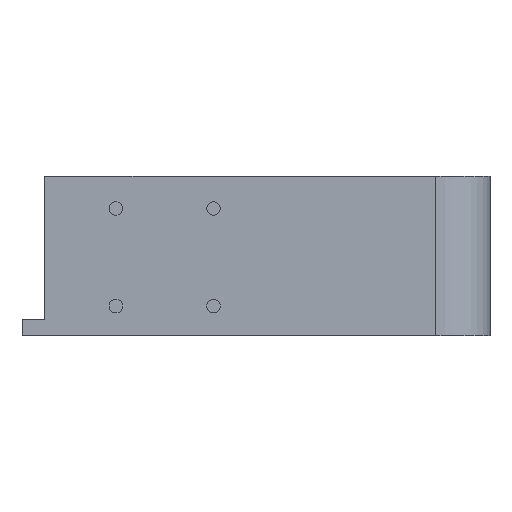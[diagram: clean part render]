
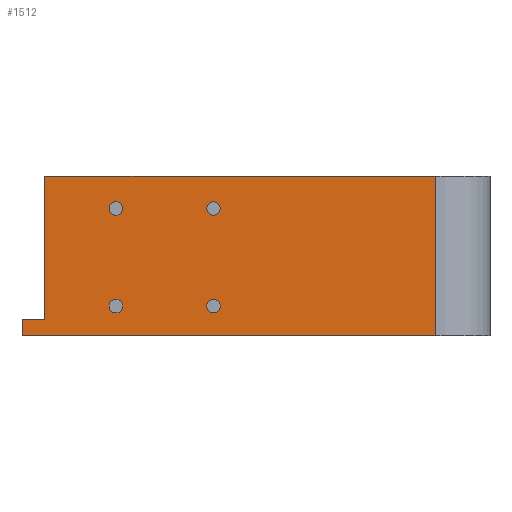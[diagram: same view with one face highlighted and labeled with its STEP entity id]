
A CAD part, front view. The second image highlights one B-rep face of the part: STEP entity #1512.
In plain terms, the highlighted planar face has unit normal (0, -1, 0).
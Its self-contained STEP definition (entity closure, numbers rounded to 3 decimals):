
#152 = DIRECTION ( 'NONE',  ( 0., -1., 0. ) ) ;
#190 = VECTOR ( 'NONE', #3405, 1000. ) ;
#233 = CIRCLE ( 'NONE', #2350, 1.25 ) ;
#386 = CARTESIAN_POINT ( 'NONE',  ( 50., -42., 27. ) ) ;
#400 = CARTESIAN_POINT ( 'NONE',  ( 60., -42., -2.5 ) ) ;
#409 = DIRECTION ( 'NONE',  ( 0., -1., 0. ) ) ;
#495 = VECTOR ( 'NONE', #6347, 1000. ) ;
#623 = EDGE_CURVE ( 'NONE', #2760, #4994, #2675, .T. ) ;
#705 = CARTESIAN_POINT ( 'NONE',  ( -26.3, -42., -2.5 ) ) ;
#791 = DIRECTION ( 'NONE',  ( 0., 0., -1. ) ) ;
#813 = ORIENTED_EDGE ( 'NONE', *, *, #1380, .F. ) ;
#890 = EDGE_LOOP ( 'NONE', ( #813, #4238 ) ) ;
#979 = ORIENTED_EDGE ( 'NONE', *, *, #623, .T. ) ;
#1014 = FACE_BOUND ( 'NONE', #2557, .T. ) ;
#1113 = VECTOR ( 'NONE', #5849, 1000. ) ;
#1117 = DIRECTION ( 'NONE',  ( 0., -1., 0. ) ) ;
#1174 = VERTEX_POINT ( 'NONE', #7221 ) ;
#1289 = EDGE_CURVE ( 'NONE', #2760, #3840, #3304, .T. ) ;
#1380 = EDGE_CURVE ( 'NONE', #1401, #5622, #4348, .T. ) ;
#1381 = DIRECTION ( 'NONE',  ( 0., 0., 1. ) ) ;
#1401 = VERTEX_POINT ( 'NONE', #5600 ) ;
#1494 = ORIENTED_EDGE ( 'NONE', *, *, #1289, .F. ) ;
#1512 = ADVANCED_FACE ( 'NONE', ( #7039, #5833, #2932, #1014, #1682 ), #5906, .F. ) ;
#1682 = FACE_OUTER_BOUND ( 'NONE', #7450, .T. ) ;
#1790 = ORIENTED_EDGE ( 'NONE', *, *, #6797, .F. ) ;
#1811 = CIRCLE ( 'NONE', #2160, 1.25 ) ;
#1850 = CARTESIAN_POINT ( 'NONE',  ( 9., -42., 22.25 ) ) ;
#1864 = ORIENTED_EDGE ( 'NONE', *, *, #7694, .F. ) ;
#1888 = CARTESIAN_POINT ( 'NONE',  ( 50., -42., 27. ) ) ;
#1941 = EDGE_LOOP ( 'NONE', ( #5076, #3765 ) ) ;
#2022 = VERTEX_POINT ( 'NONE', #4555 ) ;
#2060 = VERTEX_POINT ( 'NONE', #2793 ) ;
#2090 = EDGE_CURVE ( 'NONE', #5622, #1401, #7241, .T. ) ;
#2105 = AXIS2_PLACEMENT_3D ( 'NONE', #4067, #3440, #2223 ) ;
#2148 = DIRECTION ( 'NONE',  ( 0., -1., 0. ) ) ;
#2160 = AXIS2_PLACEMENT_3D ( 'NONE', #5422, #4793, #3697 ) ;
#2223 = DIRECTION ( 'NONE',  ( 0., 0., 1. ) ) ;
#2304 = CARTESIAN_POINT ( 'NONE',  ( -9., -42., 21. ) ) ;
#2310 = AXIS2_PLACEMENT_3D ( 'NONE', #2304, #3403, #2825 ) ;
#2350 = AXIS2_PLACEMENT_3D ( 'NONE', #4898, #3134, #791 ) ;
#2423 = CARTESIAN_POINT ( 'NONE',  ( 9., -42., 21. ) ) ;
#2557 = EDGE_LOOP ( 'NONE', ( #6918, #1864 ) ) ;
#2675 = LINE ( 'NONE', #3846, #495 ) ;
#2760 = VERTEX_POINT ( 'NONE', #4332 ) ;
#2783 = VERTEX_POINT ( 'NONE', #386 ) ;
#2793 = CARTESIAN_POINT ( 'NONE',  ( -9., -42., 1.75 ) ) ;
#2825 = DIRECTION ( 'NONE',  ( 0., 0., -1. ) ) ;
#2932 = FACE_BOUND ( 'NONE', #890, .T. ) ;
#3104 = VERTEX_POINT ( 'NONE', #5539 ) ;
#3134 = DIRECTION ( 'NONE',  ( 0., -1., 0. ) ) ;
#3151 = AXIS2_PLACEMENT_3D ( 'NONE', #2423, #4933, #3167 ) ;
#3167 = DIRECTION ( 'NONE',  ( 0., 0., -1. ) ) ;
#3247 = EDGE_LOOP ( 'NONE', ( #6369, #6462 ) ) ;
#3304 = LINE ( 'NONE', #5577, #3521 ) ;
#3318 = CIRCLE ( 'NONE', #2310, 1.25 ) ;
#3358 = LINE ( 'NONE', #7542, #5558 ) ;
#3403 = DIRECTION ( 'NONE',  ( 0., -1., 0. ) ) ;
#3405 = DIRECTION ( 'NONE',  ( -1., 0., 0. ) ) ;
#3415 = DIRECTION ( 'NONE',  ( 0., 0., -1. ) ) ;
#3434 = VERTEX_POINT ( 'NONE', #1850 ) ;
#3440 = DIRECTION ( 'NONE',  ( 0., 1., 0. ) ) ;
#3521 = VECTOR ( 'NONE', #7296, 1000. ) ;
#3540 = VERTEX_POINT ( 'NONE', #4942 ) ;
#3571 = EDGE_CURVE ( 'NONE', #2060, #1174, #233, .T. ) ;
#3697 = DIRECTION ( 'NONE',  ( 0., 0., -1. ) ) ;
#3760 = EDGE_CURVE ( 'NONE', #4590, #4994, #7648, .T. ) ;
#3765 = ORIENTED_EDGE ( 'NONE', *, *, #4997, .F. ) ;
#3840 = VERTEX_POINT ( 'NONE', #4979 ) ;
#3846 = CARTESIAN_POINT ( 'NONE',  ( -26.3, -42., 0.5 ) ) ;
#3871 = AXIS2_PLACEMENT_3D ( 'NONE', #5812, #409, #3415 ) ;
#3996 = LINE ( 'NONE', #400, #190 ) ;
#4050 = ORIENTED_EDGE ( 'NONE', *, *, #6115, .T. ) ;
#4067 = CARTESIAN_POINT ( 'NONE',  ( -60., -42., 27. ) ) ;
#4238 = ORIENTED_EDGE ( 'NONE', *, *, #2090, .F. ) ;
#4245 = DIRECTION ( 'NONE',  ( 0., 0., -1. ) ) ;
#4247 = EDGE_CURVE ( 'NONE', #3540, #3434, #5907, .T. ) ;
#4332 = CARTESIAN_POINT ( 'NONE',  ( -22.1, -42., 0.5 ) ) ;
#4348 = CIRCLE ( 'NONE', #7097, 1.25 ) ;
#4434 = CARTESIAN_POINT ( 'NONE',  ( 50., -42., -2.5 ) ) ;
#4555 = CARTESIAN_POINT ( 'NONE',  ( -9., -42., 19.75 ) ) ;
#4590 = VERTEX_POINT ( 'NONE', #705 ) ;
#4793 = DIRECTION ( 'NONE',  ( 0., -1., 0. ) ) ;
#4898 = CARTESIAN_POINT ( 'NONE',  ( -9., -42., 3. ) ) ;
#4912 = ORIENTED_EDGE ( 'NONE', *, *, #3760, .F. ) ;
#4927 = DIRECTION ( 'NONE',  ( 0., 0., -1. ) ) ;
#4933 = DIRECTION ( 'NONE',  ( 0., -1., 0. ) ) ;
#4942 = CARTESIAN_POINT ( 'NONE',  ( 9., -42., 19.75 ) ) ;
#4945 = ORIENTED_EDGE ( 'NONE', *, *, #6011, .F. ) ;
#4979 = CARTESIAN_POINT ( 'NONE',  ( -22.1, -42., 27. ) ) ;
#4994 = VERTEX_POINT ( 'NONE', #7735 ) ;
#4997 = EDGE_CURVE ( 'NONE', #1174, #2060, #1811, .T. ) ;
#5076 = ORIENTED_EDGE ( 'NONE', *, *, #3571, .F. ) ;
#5378 = CARTESIAN_POINT ( 'NONE',  ( 9., -42., 21. ) ) ;
#5422 = CARTESIAN_POINT ( 'NONE',  ( -9., -42., 3. ) ) ;
#5522 = EDGE_CURVE ( 'NONE', #2022, #3104, #3318, .T. ) ;
#5539 = CARTESIAN_POINT ( 'NONE',  ( -9., -42., 22.25 ) ) ;
#5558 = VECTOR ( 'NONE', #6957, 1000. ) ;
#5565 = AXIS2_PLACEMENT_3D ( 'NONE', #6291, #152, #4927 ) ;
#5577 = CARTESIAN_POINT ( 'NONE',  ( -22.1, -42., 27. ) ) ;
#5600 = CARTESIAN_POINT ( 'NONE',  ( 9., -42., 1.75 ) ) ;
#5622 = VERTEX_POINT ( 'NONE', #6644 ) ;
#5698 = CIRCLE ( 'NONE', #5565, 1.25 ) ;
#5812 = CARTESIAN_POINT ( 'NONE',  ( 9., -42., 3. ) ) ;
#5833 = FACE_BOUND ( 'NONE', #1941, .T. ) ;
#5849 = DIRECTION ( 'NONE',  ( 0., 0., 1. ) ) ;
#5906 = PLANE ( 'NONE',  #2105 ) ;
#5907 = CIRCLE ( 'NONE', #3151, 1.25 ) ;
#6011 = EDGE_CURVE ( 'NONE', #3840, #2783, #3358, .T. ) ;
#6051 = AXIS2_PLACEMENT_3D ( 'NONE', #5378, #1117, #4245 ) ;
#6115 = EDGE_CURVE ( 'NONE', #6167, #2783, #6735, .T. ) ;
#6167 = VERTEX_POINT ( 'NONE', #4434 ) ;
#6180 = CARTESIAN_POINT ( 'NONE',  ( 9., -42., 3. ) ) ;
#6181 = VECTOR ( 'NONE', #1381, 1000. ) ;
#6291 = CARTESIAN_POINT ( 'NONE',  ( -9., -42., 21. ) ) ;
#6295 = DIRECTION ( 'NONE',  ( 0., 0., -1. ) ) ;
#6347 = DIRECTION ( 'NONE',  ( -1., 0., 0. ) ) ;
#6369 = ORIENTED_EDGE ( 'NONE', *, *, #5522, .F. ) ;
#6421 = CIRCLE ( 'NONE', #6051, 1.25 ) ;
#6427 = CARTESIAN_POINT ( 'NONE',  ( -26.3, -42., -2.5 ) ) ;
#6462 = ORIENTED_EDGE ( 'NONE', *, *, #6964, .F. ) ;
#6644 = CARTESIAN_POINT ( 'NONE',  ( 9., -42., 4.25 ) ) ;
#6735 = LINE ( 'NONE', #1888, #6181 ) ;
#6797 = EDGE_CURVE ( 'NONE', #6167, #4590, #3996, .T. ) ;
#6918 = ORIENTED_EDGE ( 'NONE', *, *, #4247, .F. ) ;
#6957 = DIRECTION ( 'NONE',  ( 1., 0., 0. ) ) ;
#6964 = EDGE_CURVE ( 'NONE', #3104, #2022, #5698, .T. ) ;
#7039 = FACE_BOUND ( 'NONE', #3247, .T. ) ;
#7097 = AXIS2_PLACEMENT_3D ( 'NONE', #6180, #2148, #6295 ) ;
#7221 = CARTESIAN_POINT ( 'NONE',  ( -9., -42., 4.25 ) ) ;
#7241 = CIRCLE ( 'NONE', #3871, 1.25 ) ;
#7296 = DIRECTION ( 'NONE',  ( 0., 0., 1. ) ) ;
#7450 = EDGE_LOOP ( 'NONE', ( #1494, #979, #4912, #1790, #4050, #4945 ) ) ;
#7542 = CARTESIAN_POINT ( 'NONE',  ( -60., -42., 27. ) ) ;
#7648 = LINE ( 'NONE', #6427, #1113 ) ;
#7694 = EDGE_CURVE ( 'NONE', #3434, #3540, #6421, .T. ) ;
#7735 = CARTESIAN_POINT ( 'NONE',  ( -26.3, -42., 0.5 ) ) ;
